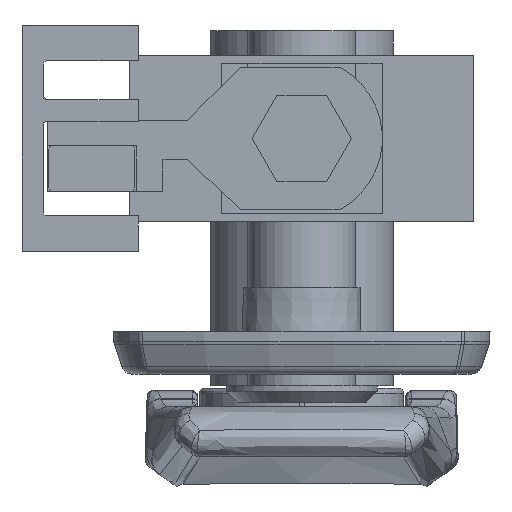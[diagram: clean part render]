
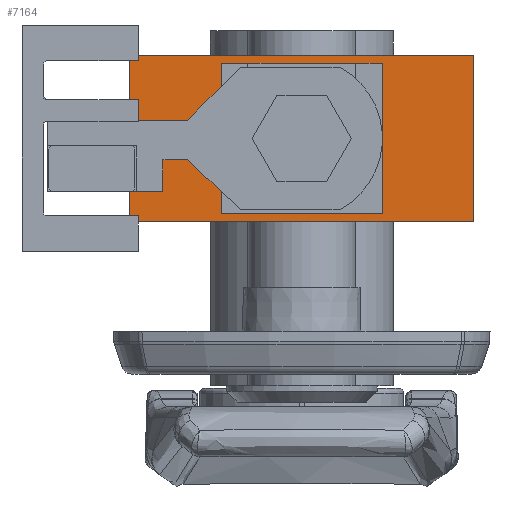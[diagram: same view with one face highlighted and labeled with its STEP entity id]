
A CAD part, front view. The second image highlights one B-rep face of the part: STEP entity #7164.
In plain terms, the highlighted planar face has unit normal (0, -1, 0).
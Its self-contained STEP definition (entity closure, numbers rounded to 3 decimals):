
#173 = VECTOR ( 'NONE', #25057, 1000. ) ;
#272 = CARTESIAN_POINT ( 'NONE',  ( -7., -199.25, 6.25 ) ) ;
#694 = EDGE_CURVE ( 'NONE', #30988, #12412, #14625, .T. ) ;
#1045 = CARTESIAN_POINT ( 'NONE',  ( 7., -199.25, -6.25 ) ) ;
#1767 = CARTESIAN_POINT ( 'NONE',  ( -16., -199.25, -7.75 ) ) ;
#2494 = VERTEX_POINT ( 'NONE', #32111 ) ;
#4411 = DIRECTION ( 'NONE',  ( 0., 0., -1. ) ) ;
#4768 = DIRECTION ( 'NONE',  ( 0., 1., 0. ) ) ;
#5075 = VERTEX_POINT ( 'NONE', #27850 ) ;
#5115 = FACE_BOUND ( 'NONE', #11438, .T. ) ;
#5454 = ORIENTED_EDGE ( 'NONE', *, *, #33149, .F. ) ;
#6064 = EDGE_CURVE ( 'NONE', #5075, #28770, #7433, .T. ) ;
#6411 = ORIENTED_EDGE ( 'NONE', *, *, #8888, .F. ) ;
#7164 = ADVANCED_FACE ( 'NONE', ( #5115, #27756 ), #15340, .F. ) ;
#7377 = LINE ( 'NONE', #25340, #22399 ) ;
#7433 = LINE ( 'NONE', #33100, #173 ) ;
#7550 = DIRECTION ( 'NONE',  ( 0., 0., -1. ) ) ;
#7569 = LINE ( 'NONE', #25354, #13077 ) ;
#8888 = EDGE_CURVE ( 'NONE', #22706, #2494, #21985, .T. ) ;
#9758 = VERTEX_POINT ( 'NONE', #18954 ) ;
#9898 = VECTOR ( 'NONE', #4411, 1000. ) ;
#10407 = CARTESIAN_POINT ( 'NONE',  ( 7., -199.25, 6.25 ) ) ;
#10665 = CARTESIAN_POINT ( 'NONE',  ( 16., -199.25, -7.75 ) ) ;
#10909 = EDGE_CURVE ( 'NONE', #9758, #22706, #14546, .T. ) ;
#11043 = EDGE_CURVE ( 'NONE', #12412, #28770, #24747, .T. ) ;
#11438 = EDGE_LOOP ( 'NONE', ( #6411, #15756, #16977, #23752 ) ) ;
#12092 = CARTESIAN_POINT ( 'NONE',  ( -7., -199.25, -6.25 ) ) ;
#12412 = VERTEX_POINT ( 'NONE', #22891 ) ;
#13077 = VECTOR ( 'NONE', #31230, 1000. ) ;
#13351 = EDGE_CURVE ( 'NONE', #2494, #18566, #28660, .T. ) ;
#13858 = EDGE_LOOP ( 'NONE', ( #23664, #24970, #5454, #15583 ) ) ;
#14546 = LINE ( 'NONE', #10407, #16871 ) ;
#14625 = LINE ( 'NONE', #32884, #24586 ) ;
#15292 = DIRECTION ( 'NONE',  ( -1., 0., 0. ) ) ;
#15340 = PLANE ( 'NONE',  #31732 ) ;
#15583 = ORIENTED_EDGE ( 'NONE', *, *, #694, .T. ) ;
#15756 = ORIENTED_EDGE ( 'NONE', *, *, #10909, .F. ) ;
#16871 = VECTOR ( 'NONE', #15292, 1000. ) ;
#16977 = ORIENTED_EDGE ( 'NONE', *, *, #27884, .F. ) ;
#18566 = VERTEX_POINT ( 'NONE', #1045 ) ;
#18954 = CARTESIAN_POINT ( 'NONE',  ( 7., -199.25, 6.25 ) ) ;
#21254 = DIRECTION ( 'NONE',  ( 1., 0., 0. ) ) ;
#21985 = LINE ( 'NONE', #12092, #9898 ) ;
#22399 = VECTOR ( 'NONE', #24834, 1000. ) ;
#22706 = VERTEX_POINT ( 'NONE', #272 ) ;
#22891 = CARTESIAN_POINT ( 'NONE',  ( -16., -199.25, -7.75 ) ) ;
#23038 = DIRECTION ( 'NONE',  ( 0., 0., 1. ) ) ;
#23664 = ORIENTED_EDGE ( 'NONE', *, *, #11043, .T. ) ;
#23752 = ORIENTED_EDGE ( 'NONE', *, *, #13351, .F. ) ;
#24586 = VECTOR ( 'NONE', #7550, 1000. ) ;
#24747 = LINE ( 'NONE', #1767, #31857 ) ;
#24802 = CARTESIAN_POINT ( 'NONE',  ( -16., -199.25, 7.75 ) ) ;
#24834 = DIRECTION ( 'NONE',  ( 1., 0., 0. ) ) ;
#24970 = ORIENTED_EDGE ( 'NONE', *, *, #6064, .F. ) ;
#25057 = DIRECTION ( 'NONE',  ( 0., 0., -1. ) ) ;
#25340 = CARTESIAN_POINT ( 'NONE',  ( -16., -199.25, 7.75 ) ) ;
#25354 = CARTESIAN_POINT ( 'NONE',  ( 7., -199.25, 6.25 ) ) ;
#27756 = FACE_OUTER_BOUND ( 'NONE', #13858, .T. ) ;
#27850 = CARTESIAN_POINT ( 'NONE',  ( 16., -199.25, 7.75 ) ) ;
#27884 = EDGE_CURVE ( 'NONE', #18566, #9758, #7569, .T. ) ;
#28432 = CARTESIAN_POINT ( 'NONE',  ( -16., -199.25, 7.75 ) ) ;
#28660 = LINE ( 'NONE', #28973, #32471 ) ;
#28770 = VERTEX_POINT ( 'NONE', #10665 ) ;
#28973 = CARTESIAN_POINT ( 'NONE',  ( -7., -199.25, -6.25 ) ) ;
#30988 = VERTEX_POINT ( 'NONE', #24802 ) ;
#31215 = DIRECTION ( 'NONE',  ( 1., 0., 0. ) ) ;
#31230 = DIRECTION ( 'NONE',  ( 0., 0., 1. ) ) ;
#31732 = AXIS2_PLACEMENT_3D ( 'NONE', #28432, #4768, #23038 ) ;
#31857 = VECTOR ( 'NONE', #31215, 1000. ) ;
#32111 = CARTESIAN_POINT ( 'NONE',  ( -7., -199.25, -6.25 ) ) ;
#32471 = VECTOR ( 'NONE', #21254, 1000. ) ;
#32884 = CARTESIAN_POINT ( 'NONE',  ( -16., -199.25, 7.75 ) ) ;
#33100 = CARTESIAN_POINT ( 'NONE',  ( 16., -199.25, 7.75 ) ) ;
#33149 = EDGE_CURVE ( 'NONE', #30988, #5075, #7377, .T. ) ;
